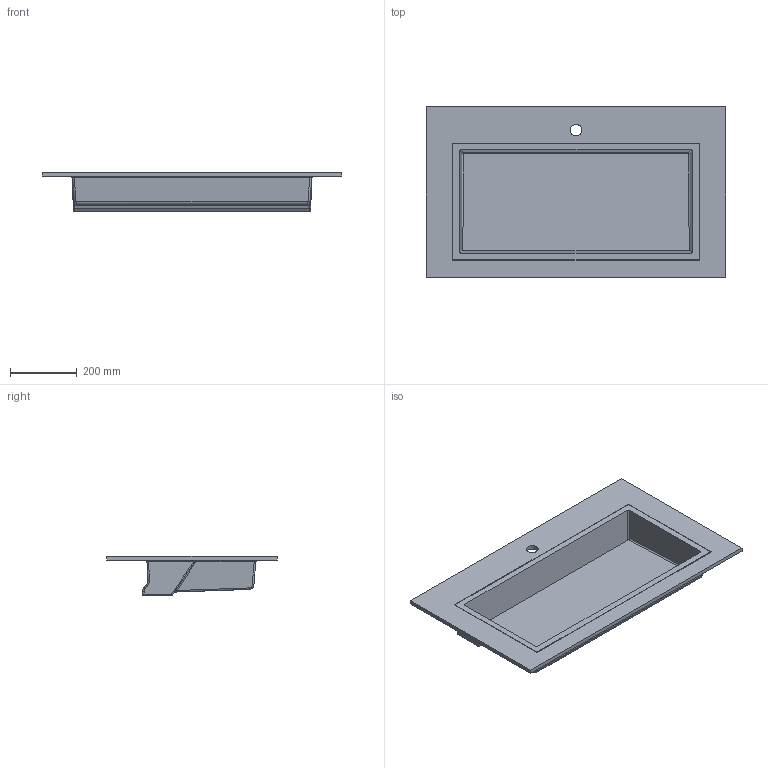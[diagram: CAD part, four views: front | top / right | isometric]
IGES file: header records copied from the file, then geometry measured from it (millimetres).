
Start section: Data from Parasolid IGES Translator 19.0.9, Copyright(c) 2006 Siemens PL M Software. All Rights Reserved.
Global section: file name: noorth-top-H 1,2 D 51,3 W 90_6530.igs; native system: By Siemens PLM Incorporated; preprocessor: XPlus GENERIC/IGES 19.0.9; author: Noname; organization: Noname; date: 20200603.094137; units: metre
Bounding box: 900 x 512 x 118.64 mm (x, y, z)
Volume: 7641995.6 mm3; surface area: 1392512.8 mm2
Topology: 2 solids, 2 shells, 101 faces, 240 edges, 140 vertices
Faces by surface type: plane 39, cylinder 34, bspline 28
Full cylindrical faces by diameter (mm): 34.9 x1
